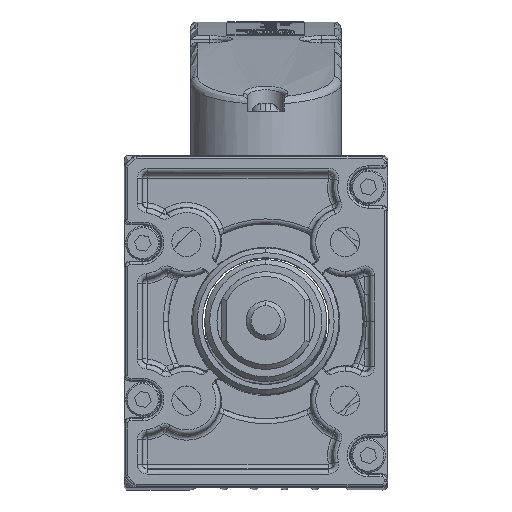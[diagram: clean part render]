
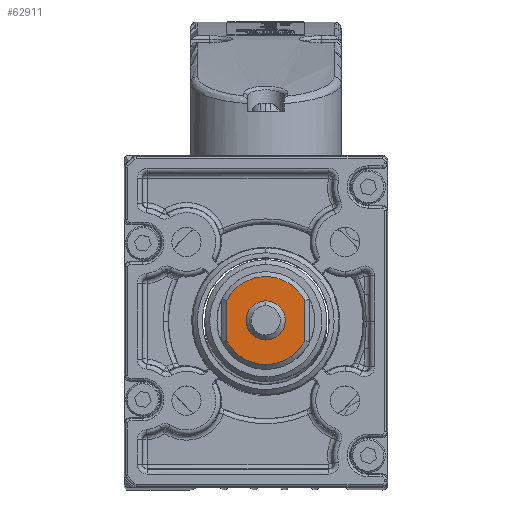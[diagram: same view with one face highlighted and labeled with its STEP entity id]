
A CAD part, top view. The second image highlights one B-rep face of the part: STEP entity #62911.
In plain terms, the highlighted planar face has unit normal (0, 0, 1) as drawn and (0, 0, -1) by its records, which use the part's own axes.
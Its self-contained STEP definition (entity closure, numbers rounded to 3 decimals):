
#5082 = AXIS2_PLACEMENT_3D ( 'NONE', #12609, #12617, #12618 ) ;
#12358 = CIRCLE ( 'NONE', #12361, 9. ) ;
#12361 = AXIS2_PLACEMENT_3D ( 'NONE', #43638, #43639, #43640 ) ;
#12384 = CIRCLE ( 'NONE', #12386, 4. ) ;
#12386 = AXIS2_PLACEMENT_3D ( 'NONE', #43690, #43691, #43692 ) ;
#12609 = CARTESIAN_POINT ( 'NONE',  ( 10., 0., -469. ) ) ;
#12613 = FACE_OUTER_BOUND ( 'NONE', #28224, .T. ) ;
#12614 = FACE_BOUND ( 'NONE', #28231, .T. ) ;
#12615 = PLANE ( 'NONE',  #5082 ) ;
#12617 = DIRECTION ( 'NONE',  ( 0., 0., -1. ) ) ;
#12618 = DIRECTION ( 'NONE',  ( -1., 0., 0. ) ) ;
#21316 = EDGE_CURVE ( 'NONE', #49716, #49725, #12358, .T. ) ;
#21345 = EDGE_CURVE ( 'NONE', #49906, #49894, #12384, .T. ) ;
#21437 = EDGE_CURVE ( 'NONE', #49994, #49987, #63276, .T. ) ;
#21439 = EDGE_CURVE ( 'NONE', #49987, #50002, #43833, .T. ) ;
#21441 = EDGE_CURVE ( 'NONE', #50002, #49716, #63266, .T. ) ;
#28224 = EDGE_LOOP ( 'NONE', ( #68183, #68186, #68189, #68192, #68195 ) ) ;
#28231 = EDGE_LOOP ( 'NONE', ( #68198, #68201 ) ) ;
#30447 = VECTOR ( 'NONE', #45071, 1000. ) ;
#30459 = CIRCLE ( 'NONE', #30476, 4. ) ;
#30476 = AXIS2_PLACEMENT_3D ( 'NONE', #45072, #45073, #45074 ) ;
#43638 = CARTESIAN_POINT ( 'NONE',  ( 0., 0., -469. ) ) ;
#43639 = DIRECTION ( 'NONE',  ( 0., 0., -1. ) ) ;
#43640 = DIRECTION ( 'NONE',  ( -1., 0., 0. ) ) ;
#43690 = CARTESIAN_POINT ( 'NONE',  ( 0., 0., -469. ) ) ;
#43691 = DIRECTION ( 'NONE',  ( 0., 0., 1. ) ) ;
#43692 = DIRECTION ( 'NONE',  ( 1., 0., 0. ) ) ;
#43833 = LINE ( 'NONE', #43834, #63280 ) ;
#43834 = CARTESIAN_POINT ( 'NONE',  ( 4.359, 8., -469. ) ) ;
#43842 = CARTESIAN_POINT ( 'NONE',  ( 0., 0., -469. ) ) ;
#43843 = DIRECTION ( 'NONE',  ( 0., 0., -1. ) ) ;
#43844 = DIRECTION ( 'NONE',  ( -1., 0., 0. ) ) ;
#43845 = DIRECTION ( 'NONE',  ( 1., 0., 0. ) ) ;
#43849 = CARTESIAN_POINT ( 'NONE',  ( 0., 0., -469. ) ) ;
#43850 = DIRECTION ( 'NONE',  ( 0., 0., -1. ) ) ;
#43851 = DIRECTION ( 'NONE',  ( -1., 0., 0. ) ) ;
#45069 = LINE ( 'NONE', #45070, #30447 ) ;
#45070 = CARTESIAN_POINT ( 'NONE',  ( -4.359, -8., -469. ) ) ;
#45071 = DIRECTION ( 'NONE',  ( -1., 0., 0. ) ) ;
#45072 = CARTESIAN_POINT ( 'NONE',  ( 0., 0., -469. ) ) ;
#45073 = DIRECTION ( 'NONE',  ( 0., 0., 1. ) ) ;
#45074 = DIRECTION ( 'NONE',  ( 1., 0., 0. ) ) ;
#47206 = CARTESIAN_POINT ( 'NONE',  ( 9., 0., -469. ) ) ;
#47217 = CARTESIAN_POINT ( 'NONE',  ( 4.123, -8., -469. ) ) ;
#47406 = CARTESIAN_POINT ( 'NONE',  ( -4., 0., -469. ) ) ;
#47418 = CARTESIAN_POINT ( 'NONE',  ( 4., 0., -469. ) ) ;
#47503 = CARTESIAN_POINT ( 'NONE',  ( -4.123, 8., -469. ) ) ;
#47510 = CARTESIAN_POINT ( 'NONE',  ( -4.123, -8., -469. ) ) ;
#47518 = CARTESIAN_POINT ( 'NONE',  ( 4.123, 8., -469. ) ) ;
#49716 = VERTEX_POINT ( 'NONE', #47206 ) ;
#49725 = VERTEX_POINT ( 'NONE', #47217 ) ;
#49894 = VERTEX_POINT ( 'NONE', #47406 ) ;
#49906 = VERTEX_POINT ( 'NONE', #47418 ) ;
#49987 = VERTEX_POINT ( 'NONE', #47503 ) ;
#49994 = VERTEX_POINT ( 'NONE', #47510 ) ;
#50002 = VERTEX_POINT ( 'NONE', #47518 ) ;
#62911 = ADVANCED_FACE ( 'NONE', ( #12613, #12614 ), #12615, .T. ) ;
#63265 = AXIS2_PLACEMENT_3D ( 'NONE', #43842, #43843, #43844 ) ;
#63266 = CIRCLE ( 'NONE', #63268, 9. ) ;
#63268 = AXIS2_PLACEMENT_3D ( 'NONE', #43849, #43850, #43851 ) ;
#63276 = CIRCLE ( 'NONE', #63265, 9. ) ;
#63280 = VECTOR ( 'NONE', #43845, 1000. ) ;
#68183 = ORIENTED_EDGE ( 'NONE', *, *, #21437, .T. ) ;
#68186 = ORIENTED_EDGE ( 'NONE', *, *, #21439, .T. ) ;
#68189 = ORIENTED_EDGE ( 'NONE', *, *, #21441, .T. ) ;
#68192 = ORIENTED_EDGE ( 'NONE', *, *, #21316, .T. ) ;
#68195 = ORIENTED_EDGE ( 'NONE', *, *, #72016, .T. ) ;
#68198 = ORIENTED_EDGE ( 'NONE', *, *, #21345, .T. ) ;
#68201 = ORIENTED_EDGE ( 'NONE', *, *, #72019, .T. ) ;
#72016 = EDGE_CURVE ( 'NONE', #49725, #49994, #45069, .T. ) ;
#72019 = EDGE_CURVE ( 'NONE', #49894, #49906, #30459, .T. ) ;
